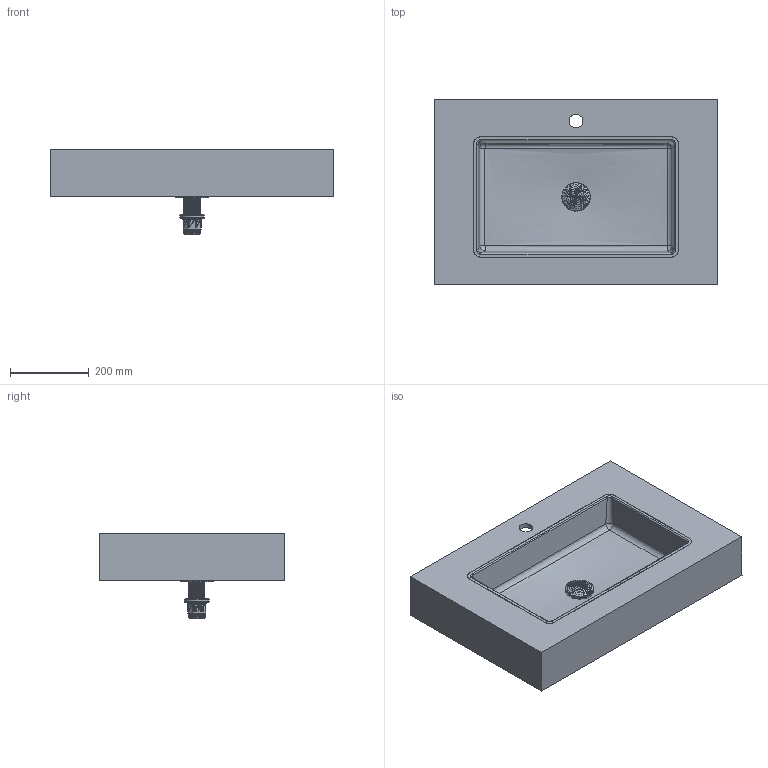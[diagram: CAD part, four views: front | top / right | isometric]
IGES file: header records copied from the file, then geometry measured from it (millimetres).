
Start section: Data from Parasolid IGES Translator 19.0.9, Copyright(c) 2006 Siemens PL M Software. All Rights Reserved.
Global section: file name: noorth-top-H 12 D 47,3 W 72_6547.igs; native system: By Siemens PLM Incorporated; preprocessor: XPlus GENERIC/IGES 19.0.9; author: Noname; organization: Noname; date: 20200603.090223; units: metre
Bounding box: 720 x 472 x 215.1 mm (x, y, z)
Volume: 7352803.4 mm3; surface area: 1400724.3 mm2
Topology: 2 solids, 2 shells, 11695 faces, 35045 edges, 34967 vertices
Faces by surface type: extrusion 11618, bspline 40, plane 28, cylinder 7, cone 2
Full cylindrical faces by diameter (mm): 34.9 x1, 45 x1, 46.029 x1
